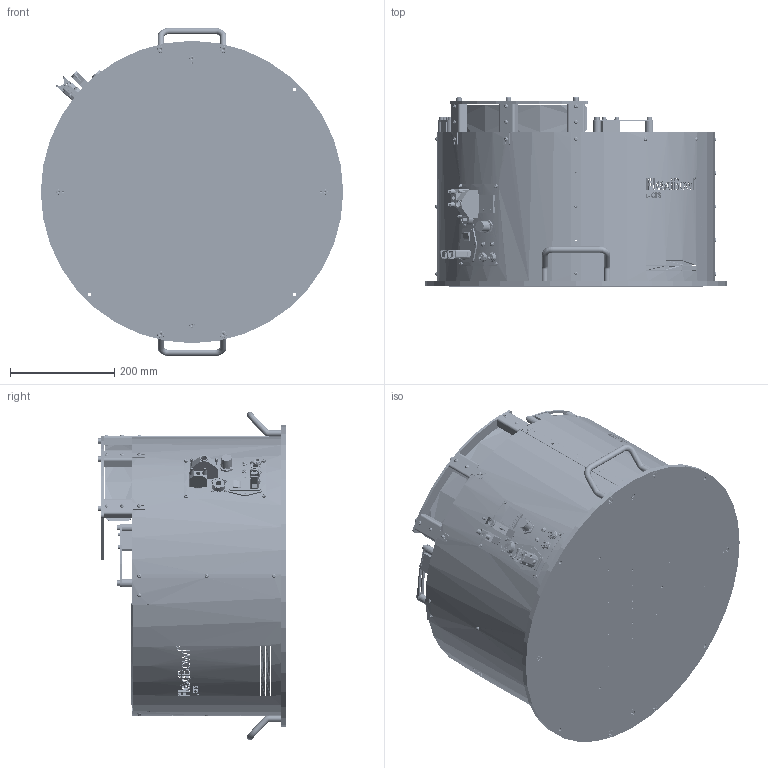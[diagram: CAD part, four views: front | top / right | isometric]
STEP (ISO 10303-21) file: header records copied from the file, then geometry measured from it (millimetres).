
FILE_DESCRIPTION (( 'STEP AP214' ), '1' );
FILE_NAME ('FB500CC Quick emptying.STEP', '2021-09-09T13:02:36', ( '' ), ( '' ), 'SwSTEP 2.0', 'SolidWorks 2020', '' );
FILE_SCHEMA (( 'AUTOMOTIVE_DESIGN' ));
Length unit declared in the file: millimetre
Products named in the file (84): PD001118; Copia di Connettore te 2 poli - Copia^CE000302; PD001106; CM000024; CM000008; CM000686; PD001740; Copia di 39-01-2025^CE000327; CE000421; CM000686_002; CE000419; PD001425; CM000032; CM000642; PD001119; CE000013; CM000212; PD001736; CE000429; CE000039; CE000326; GM000444; CM000026; CM000728; CE000007; PD001649; CM000008_003; PD001356; PD001650; FB500CC Quick emptying; Copia di CE000327^CE000327; CM000051; CM000008_005; CM000179; PD001111; PD001360_FB500; CM000025; CE000420; PD001749; CM000001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
Assembly tree (215 placements, depth 4):
  FB500CC Quick emptying
    CM000032  x4
    CM000031  x7
    CM000048  x20
    CM000170  x4
    CM000050  x3
    CM000478  x6
    CM000166  x8
    CM000642  x4
    CM000027  x4
    CM000091  x2
    CM000021  x15
    CM000026
    CM000025
    CM000051  x4
    PD001071
    CM000001  x2
    PD001440  x4
    PD001736  x3
    PD001650
    PD001356
    PD000709
    PD000031
    PD001106
    PD001109  x3
    PD001111  x3
    PD001112
    PD001059
    PD000043  x4
    PD001118  x2
    PD001119  x2
    PD001424
    PD001425
    CE000429
    GM000444
      CM000728  x2
      CM000179  x2
      CM000021  x2
      CM000212  x8
      CM000048  x2
      PD001646
      PD001649
      PD001647
      PD001749
      PD001740
    Assieme5^FB500CC Quick emptying
      CE000276
      CE000039
      CE000327
        Copia di CE000327^CE000327
        Copia di 39-01-2025^CE000327
      CE000325
      CM000686
        CM000686_001
        CM000686_002
      CE000030  x2
      CE000013  x2
      CE000302
        Copia di connector_a-ds_25_pp-f^CE000302
        Copia di 15 poli femmina^CE000302
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Bounding box: 580 x 362 x 628.99 mm (x, y, z)
Volume: 6931887.4 mm3; surface area: 3145617.8 mm2
Topology: 223 solids, 242 shells, 16973 faces, 44398 edges, 28253 vertices
Faces by surface type: plane 9025, cylinder 3909, cone 1758, bspline 1491, torus 714, sphere 76
Entity records: 605018 total; most frequent: CARTESIAN_POINT 214556, ORIENTED_EDGE 73542, DIRECTION 61118, EDGE_CURVE 36973, VERTEX_POINT 24151, AXIS2_PLACEMENT_3D 20515, LINE 20088, VECTOR 20088
